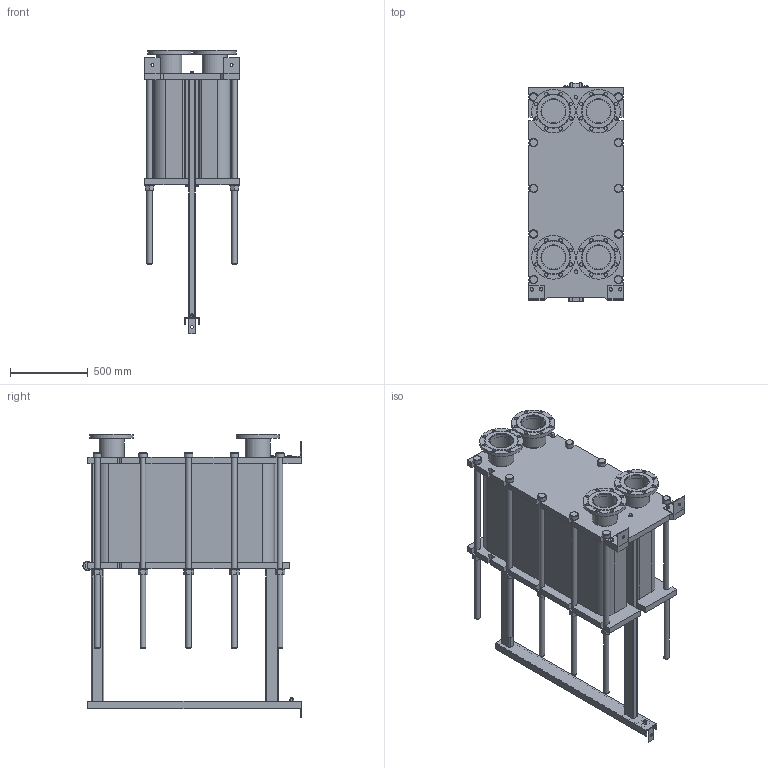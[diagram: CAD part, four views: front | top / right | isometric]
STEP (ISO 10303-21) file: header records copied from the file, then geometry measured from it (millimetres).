
FILE_DESCRIPTION(/* description */ (''),/* implementation_level */ '2;1');
FILE_NAME(/* name */ 'C:\Users\zhuro\Desktop\ENCO\TO\ЭН-041\ЭН-0,5-041-185-1.stp',/* time_stamp */ '2022-06-06T11:05:27+03:00',/* author */ ('zhuro'),/* organization */ (''),/* preprocessor_version */ 'ST-DEVELOPER v18.1',/* originating_system */ 'Autodesk Inventor 2022',/* authorisation */ '');
FILE_SCHEMA (('AUTOMOTIVE_DESIGN { 1 0 10303 214 3 1 1 }'));
Length unit declared in the file: millimetre
Products named in the file (1): ЭН-0,5-041-185-1
Bounding box: 610 x 1406.5 x 1827.5 mm (x, y, z)
Volume: 445421912.6 mm3; surface area: 10898691.4 mm2
Topology: 52 solids, 52 shells, 711 faces, 1696 edges, 1094 vertices
Faces by surface type: plane 487, cylinder 177, cone 41, torus 6
Full cylindrical faces by diameter (mm): 8 x4, 10 x2, 16 x8, 18 x3, 22 x32, 36 x24, 50 x1, 54 x10, 60 x12, 151 x4, 161 x8, 280 x4
Entity records: 22667 total; most frequent: CARTESIAN_POINT 5230, DIRECTION 3644, ORIENTED_EDGE 3392, EDGE_CURVE 1696, AXIS2_PLACEMENT_3D 1272, LINE 1100, VECTOR 1100, VERTEX_POINT 1094
